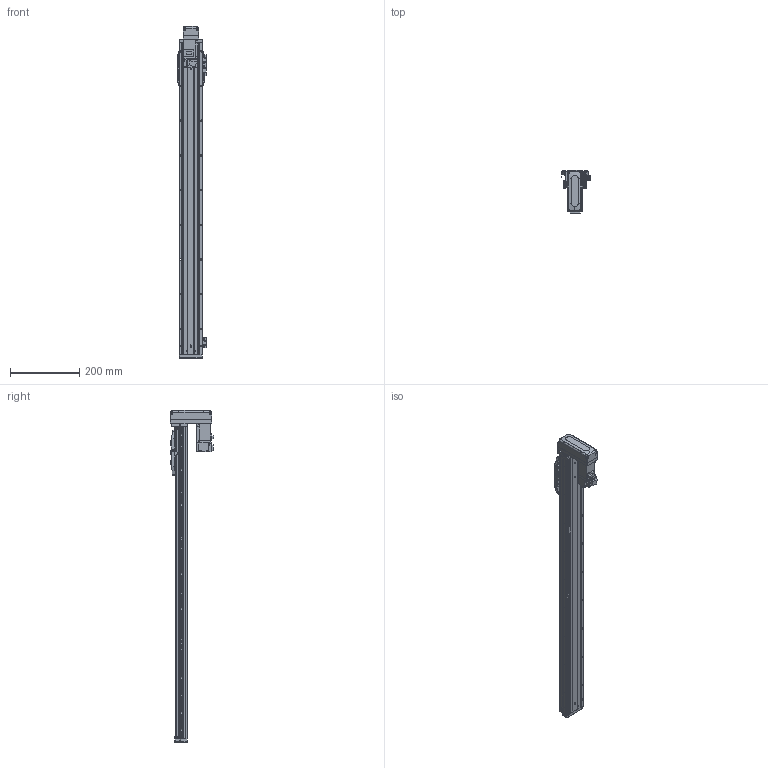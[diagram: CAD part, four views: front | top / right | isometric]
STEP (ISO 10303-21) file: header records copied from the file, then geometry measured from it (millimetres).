
FILE_DESCRIPTION (( 'STEP AP203' ), '1' );
FILE_NAME ('CTHA60-750-BM-M10-C4L.step', '2022-03-19T06:18:49', ( '微软用户' ), ( '微软中国' ), 'SwSTEP 2.0', 'SolidWorks 2020', '' );
FILE_SCHEMA (( 'CONFIG_CONTROL_DESIGN' ));
Length unit declared in the file: millimetre
Products named in the file (18): CTHA60-005; HG-KR13（三菱）; GB¨uT 70.2-M3¡Á6_M3¡Á6; CTHA60-002; EE_SX911P_R; CTHA60-031; CTHA60-017; GBT77-2000 M3×3; CTHA60-006-1; CTHA60-021; GBT 70.1-M3℅6; CTHA60-033; CTHA60-001_900; GBT 70.1-M4×16; GBT 70.3-M3℅6; CTHA60-750-BM-M10-C4L; CTHA60-004; CTHA60-016
Assembly tree (54 placements, depth 2):
  CTHA60-750-BM-M10-C4L
    CTHA60-001_900
    CTHA60-004
    CTHA60-005
    GB¨uT 70.2-M3¡Á6_M3¡Á6  x10
    EE_SX911P_R  x3
    CTHA60-017  x3
    CTHA60-021  x2
    GBT 70.1-M4×16  x10
    GBT77-2000 M3×3  x6
    GBT 70.1-M3℅6  x6
    GBT 70.3-M3℅6  x4
    CTHA60-016  x2
    HG-KR13（三菱）
    CTHA60-002
    CTHA60-031
    CTHA60-006-1
    CTHA60-033
Bounding box: 83.12 x 125.3 x 957 mm (x, y, z)
Volume: 1612007.5 mm3; surface area: 477656 mm2
Topology: 56 solids, 56 shells, 2574 faces, 6205 edges, 3829 vertices
Faces by surface type: plane 1485, cylinder 595, cone 346, torus 92, bspline 32, sphere 24
Entity records: 46949 total; most frequent: CARTESIAN_POINT 9034, DIRECTION 7276, ORIENTED_EDGE 7218, EDGE_CURVE 3609, LINE 2568, VECTOR 2568, AXIS2_PLACEMENT_3D 2354, VERTEX_POINT 2288
